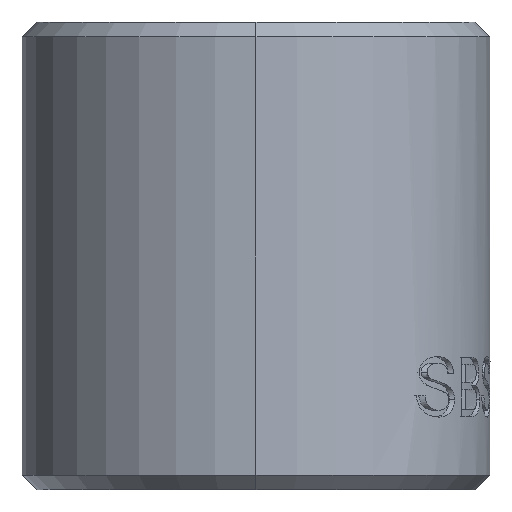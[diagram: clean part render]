
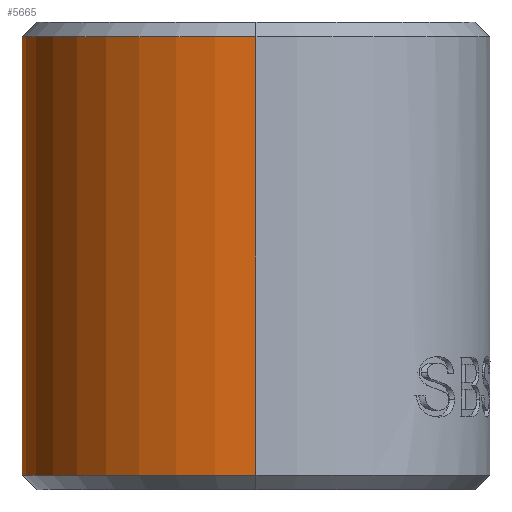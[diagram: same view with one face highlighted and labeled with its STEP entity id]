
A CAD part, left-side view. The second image highlights one B-rep face of the part: STEP entity #5665.
In plain terms, the highlighted cylindrical face has radius 7.938 mm (diameter 15.875 mm), a partial arc.
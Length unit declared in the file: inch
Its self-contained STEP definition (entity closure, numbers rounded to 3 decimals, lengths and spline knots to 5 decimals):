
#100 = CARTESIAN_POINT ( 'NONE',  ( 2., 1., 0.625 ) ) ;
#295 = AXIS2_PLACEMENT_3D ( 'NONE', #6703, #3230, #6777 ) ;
#332 = DIRECTION ( 'NONE',  ( 0., 0., -1. ) ) ;
#414 = CIRCLE ( 'NONE', #295, 0.3125 ) ;
#528 = LINE ( 'NONE', #7530, #983 ) ;
#855 = CARTESIAN_POINT ( 'NONE',  ( 1.6875, 1., 0.605 ) ) ;
#978 = CARTESIAN_POINT ( 'NONE',  ( 2.3125, 1., 0.605 ) ) ;
#983 = VECTOR ( 'NONE', #6373, 39.37008 ) ;
#1099 = VERTEX_POINT ( 'NONE', #1687 ) ;
#1242 = EDGE_CURVE ( 'NONE', #3937, #1099, #3826, .T. ) ;
#1486 = CARTESIAN_POINT ( 'NONE',  ( 2.3125, 1., 0.625 ) ) ;
#1599 = ORIENTED_EDGE ( 'NONE', *, *, #7416, .T. ) ;
#1687 = CARTESIAN_POINT ( 'NONE',  ( 2.3125, 1., 0.02 ) ) ;
#2323 = CARTESIAN_POINT ( 'NONE',  ( 1.6875, 1., 0.02 ) ) ;
#2397 = CYLINDRICAL_SURFACE ( 'NONE', #5370, 0.3125 ) ;
#2437 = DIRECTION ( 'NONE',  ( -1., 0., 0. ) ) ;
#2896 = ORIENTED_EDGE ( 'NONE', *, *, #7202, .T. ) ;
#3230 = DIRECTION ( 'NONE',  ( 0., 0., 1. ) ) ;
#3325 = EDGE_CURVE ( 'NONE', #5818, #5935, #528, .T. ) ;
#3826 = LINE ( 'NONE', #1486, #6477 ) ;
#3937 = VERTEX_POINT ( 'NONE', #978 ) ;
#4098 = CIRCLE ( 'NONE', #7426, 0.3125 ) ;
#5194 = DIRECTION ( 'NONE',  ( -1., 0., 0. ) ) ;
#5370 = AXIS2_PLACEMENT_3D ( 'NONE', #100, #5905, #2437 ) ;
#5665 = ADVANCED_FACE ( 'NONE', ( #6475 ), #2397, .T. ) ;
#5710 = EDGE_LOOP ( 'NONE', ( #1599, #6596, #2896, #6759 ) ) ;
#5818 = VERTEX_POINT ( 'NONE', #855 ) ;
#5905 = DIRECTION ( 'NONE',  ( 0., 0., -1. ) ) ;
#5935 = VERTEX_POINT ( 'NONE', #2323 ) ;
#6373 = DIRECTION ( 'NONE',  ( 0., 0., -1. ) ) ;
#6422 = CARTESIAN_POINT ( 'NONE',  ( 2., 1., 0.605 ) ) ;
#6475 = FACE_OUTER_BOUND ( 'NONE', #5710, .T. ) ;
#6477 = VECTOR ( 'NONE', #332, 39.37008 ) ;
#6596 = ORIENTED_EDGE ( 'NONE', *, *, #1242, .T. ) ;
#6703 = CARTESIAN_POINT ( 'NONE',  ( 2., 1., 0.02 ) ) ;
#6759 = ORIENTED_EDGE ( 'NONE', *, *, #3325, .F. ) ;
#6777 = DIRECTION ( 'NONE',  ( -1., 0., 0. ) ) ;
#7202 = EDGE_CURVE ( 'NONE', #1099, #5935, #414, .T. ) ;
#7416 = EDGE_CURVE ( 'NONE', #5818, #3937, #4098, .T. ) ;
#7426 = AXIS2_PLACEMENT_3D ( 'NONE', #6422, #7428, #5194 ) ;
#7428 = DIRECTION ( 'NONE',  ( 0., 0., -1. ) ) ;
#7530 = CARTESIAN_POINT ( 'NONE',  ( 1.6875, 1., 0.625 ) ) ;
